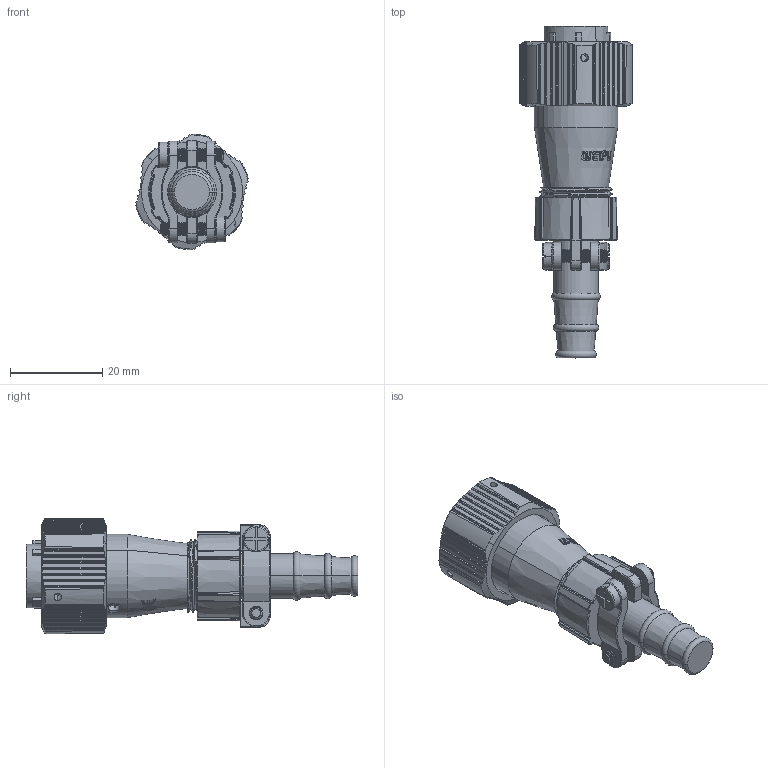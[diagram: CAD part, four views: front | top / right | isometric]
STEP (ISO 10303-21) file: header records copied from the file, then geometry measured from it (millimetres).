
FILE_DESCRIPTION((''),'2;1');
FILE_NAME('PRT0007','2019-04-01T',('Administrator'),(''),'PRO/ENGINEER BY PARAMETRIC TECHNOLOGY CORPORATION, 2015240','PRO/ENGINEER BY PARAMETRIC TECHNOLOGY CORPORATION, 2015240','');
FILE_SCHEMA(('CONFIG_CONTROL_DESIGN'));
Products named in the file (1): PRT0007
Bounding box: 24.28 x 71.8 x 24.98 mm (x, y, z)
Volume: 13501.3 mm3; surface area: 11685.5 mm2
Topology: 1 solids, 3 shells, 1304 faces, 3933 edges, 2579 vertices
Faces by surface type: plane 601, cylinder 332, cone 151, bspline 96, extrusion 70, torus 42, sphere 12
Entity records: 61297 total; most frequent: CARTESIAN_POINT 28592, ORIENTED_EDGE 7842, DIRECTION 5376, EDGE_CURVE 3921, VERTEX_POINT 2579, AXIS2_PLACEMENT_3D 1890, B_SPLINE_CURVE_WITH_KNOTS 1713, VECTOR 1596
